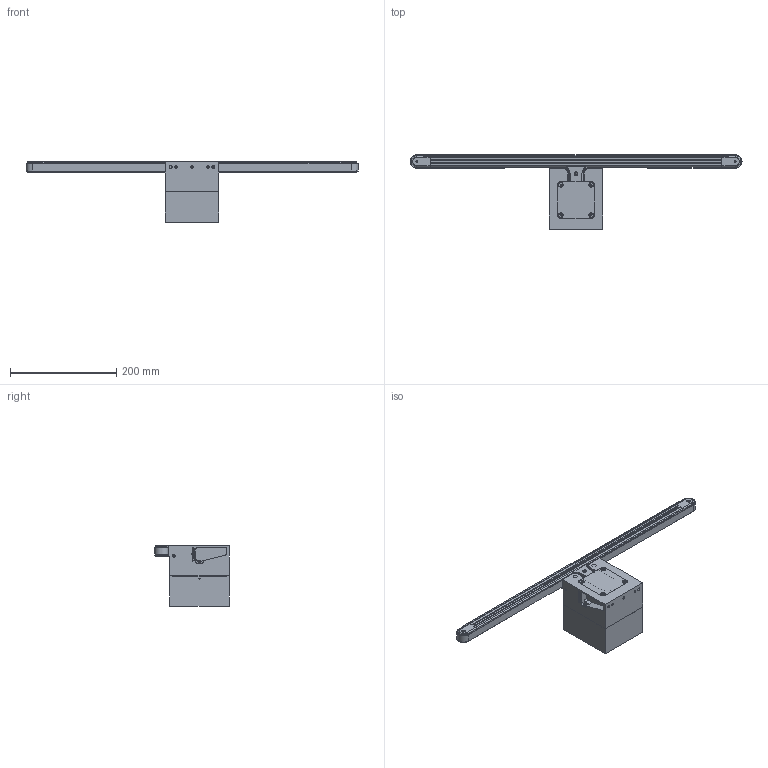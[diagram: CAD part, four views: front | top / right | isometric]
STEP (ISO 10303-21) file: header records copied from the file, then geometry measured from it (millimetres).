
FILE_DESCRIPTION(/* description */ (''),/* implementation_level */ '2;1');
FILE_NAME(/* name */ 'G:\DATEN\CAD\Förderband\Marketing\3D-Modelle (Standard)\FR-20-20-M\FR-20-20-M-600-K.stp',/* time_stamp */ '2019-03-27T16:15:15+01:00',/* author */ ('pia.schaefer'),/* organization */ (''),/* preprocessor_version */ 'ST-DEVELOPER v17',/* originating_system */ 'Autodesk Inventor 2019',/* authorisation */ '');
FILE_SCHEMA (('AUTOMOTIVE_DESIGN { 1 0 10303 214 3 1 1 }'));
Length unit declared in the file: millimetre
Products named in the file (1): FR-20-20-M-600-K
Bounding box: 625.6 x 140.3 x 114 mm (x, y, z)
Volume: 1399891.8 mm3; surface area: 311068.8 mm2
Topology: 33 solids, 36 shells, 970 faces, 2643 edges, 1785 vertices
Faces by surface type: plane 521, cylinder 234, bspline 122, cone 77, torus 16
Full cylindrical faces by diameter (mm): 1.6 x4, 2.459 x2, 3 x2, 3.5 x4, 4 x6, 4.134 x6, 4.3 x1, 4.5 x4, 4.917 x3, 5 x10, 5.2 x2, 5.5 x2, 6.5 x1, 6.647 x1, 6.773 x1, 7 x2, 8 x14, 8.773 x1, 9.43 x2, 9.6 x2, 10 x5, 11 x1, 22 x2, 24 x2
Entity records: 33255 total; most frequent: CARTESIAN_POINT 8162, ORIENTED_EDGE 5242, DIRECTION 4631, EDGE_CURVE 2621, VERTEX_POINT 1785, AXIS2_PLACEMENT_3D 1551, LINE 1529, VECTOR 1529
